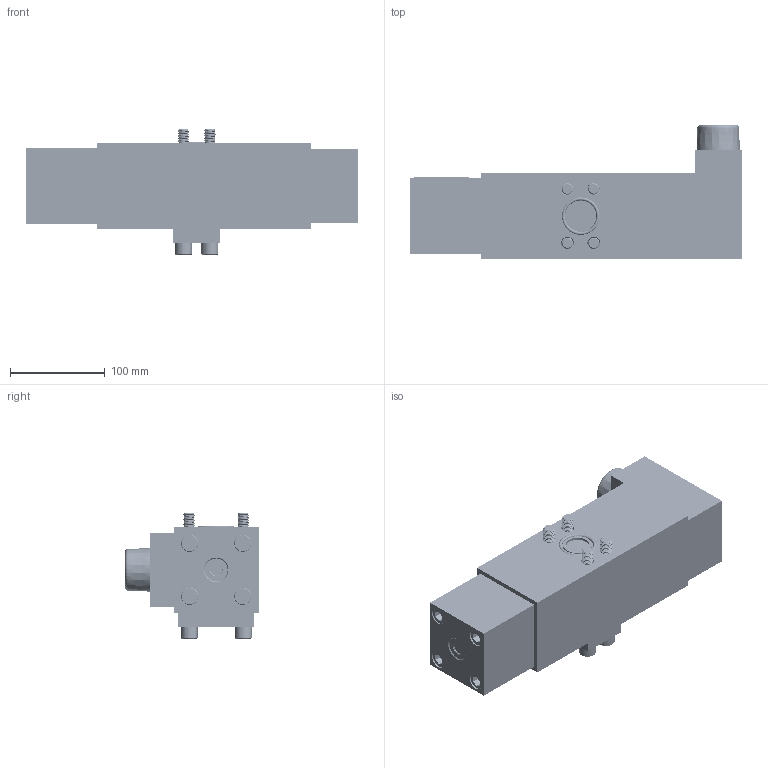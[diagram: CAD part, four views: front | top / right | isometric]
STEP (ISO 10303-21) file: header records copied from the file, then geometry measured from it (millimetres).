
FILE_DESCRIPTION(/* description */ (''),/* implementation_level */ '2;1');
FILE_NAME(/* name */ 'FD25FB平衡阀.prt.stp',/* time_stamp */ '2022-03-30T20:02:18+08:00',/* author */ (''),/* organization */ (''),/* preprocessor_version */ 'ST-DEVELOPER v16.7',/* originating_system */ 'SIEMENS PLM Software NX 12.0',/* authorisation */ '');
FILE_SCHEMA (('AUTOMOTIVE_DESIGN { 1 0 10303 214 3 1 1 1 }'));
Products named in the file (1): FD25FB平衡阀
Bounding box: 350 x 141 x 132 mm (x, y, z)
Volume: 995759.4 mm3; surface area: 323201.7 mm2
Topology: 22 solids, 24 shells, 907 faces, 2388 edges, 1565 vertices
Faces by surface type: cylinder 528, plane 249, bspline 62, cone 59, torus 9
Full cylindrical faces by diameter (mm): 1.8 x2, 1.9 x2, 2 x2, 2.5 x1, 8.5 x36, 10 x1, 10.5 x80, 11 x4, 12 x284, 12.5 x7, 13.5 x4, 14 x4, 14.5 x4, 15.73 x4, 16 x3, 18 x16, 24 x1, 25 x3, 31 x2, 39.5 x2, 41 x1, 42 x1, 43 x2, 50 x1, 54 x1
Entity records: 98046 total; most frequent: CARTESIAN_POINT 87889, ORIENTED_EDGE 1860, DIRECTION 1814, EDGE_CURVE 930, EDGE_LOOP 714, AXIS2_PLACEMENT_3D 711, VERTEX_POINT 688, ADVANCED_FACE 495
